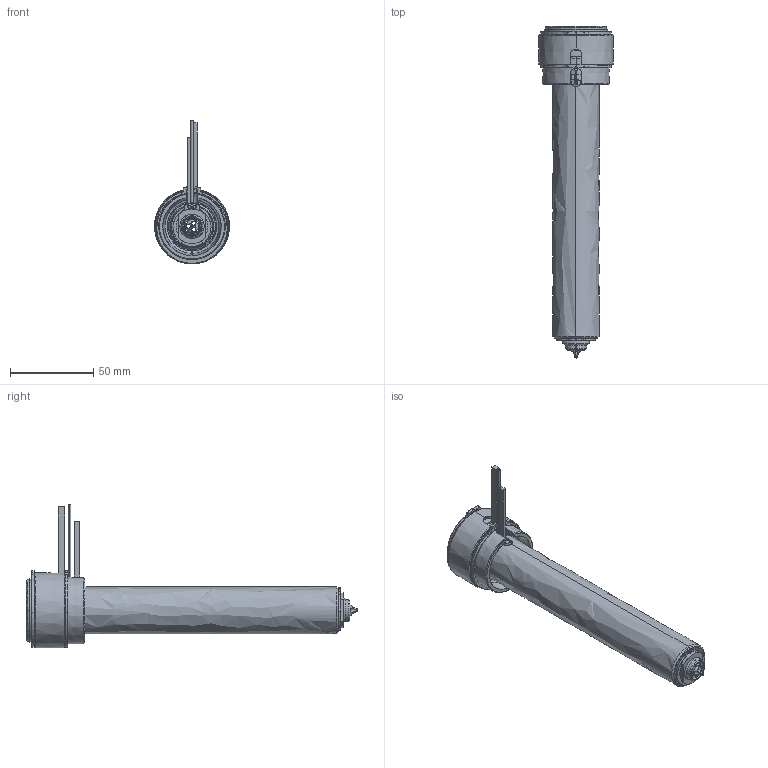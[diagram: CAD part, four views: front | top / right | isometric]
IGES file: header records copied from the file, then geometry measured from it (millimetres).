
Start section: SolidWorks IGES file using analytic representation for surfaces
Global section: file name: C:\Documents and Settings\ws-20\Desktop\TEM\UGEP4504-M-A-0 [Øf-1.31 ØC-09].IGS; native system: SolidWorks 2012; preprocessor: SolidWorks 2012; author: ws-20; date: 120424.085746; units: millimetre
Bounding box: 45 x 199.05 x 86.15 mm (x, y, z)
Surface area: 67863.5 mm2 (no closed solid volume)
Topology: 0 solids, 0 shells, 179 faces, 3317 edges, 3317 vertices
Faces by surface type: revolution 112, bspline 67
